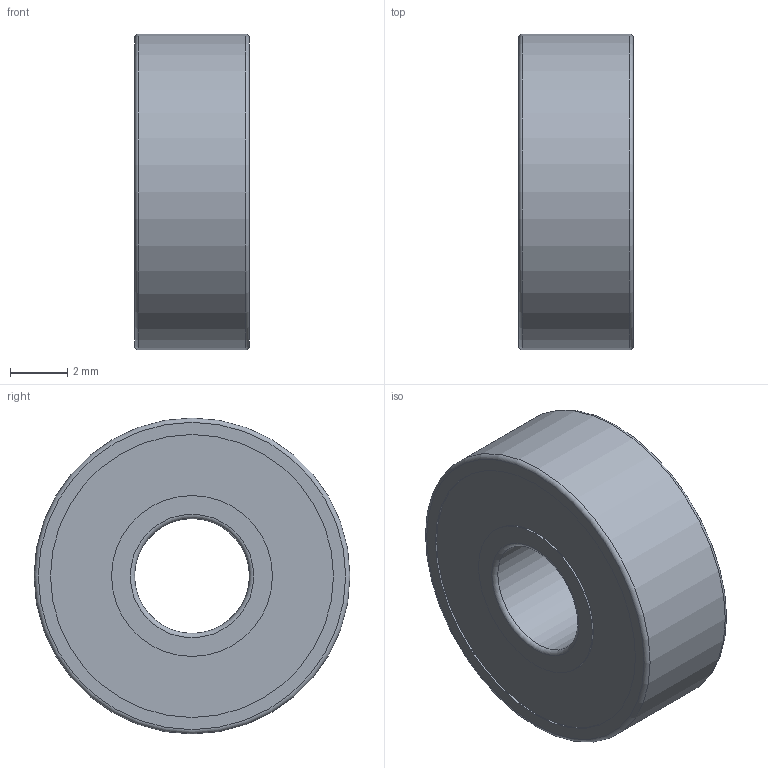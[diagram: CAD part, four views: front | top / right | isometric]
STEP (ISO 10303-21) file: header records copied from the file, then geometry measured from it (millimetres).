
FILE_DESCRIPTION(('FreeCAD Model'),'2;1');
FILE_NAME('Open CASCADE Shape Model','2021-04-30T15:06:14',(''),(''), 'Open CASCADE STEP processor 7.5','FreeCAD','Unknown');
FILE_SCHEMA(('AUTOMOTIVE_DESIGN { 1 0 10303 214 1 1 1 1 }'));
Length unit declared in the file: millimetre
Products named in the file (6): 694ZZ; _694ZZ Outer Ring; _694ZZ Inner Ring; _694ZZ Shield1; _694ZZ Ball; _694ZZ Shield2
Assembly tree (12 placements, depth 2):
  694ZZ
    _694ZZ Outer Ring
    _694ZZ Inner Ring
    _694ZZ Shield1
    _694ZZ Ball  x8
    _694ZZ Shield2
Bounding box: 4 x 11 x 11 mm (x, y, z)
Volume: 228.6 mm3; surface area: 816.5 mm2
Topology: 12 solids, 12 shells, 40 faces, 76 edges, 48 vertices
Faces by surface type: cylinder 14, plane 12, sphere 8, torus 6
Full cylindrical faces by diameter (mm): 4 x1, 5.6 x4, 6.15 x2, 8.95 x2, 9.85 x4, 11 x1
Entity records: 1770 total; most frequent: CARTESIAN_POINT 357, DIRECTION 248, ORIENTED_EDGE 104, PCURVE 104, DEFINITIONAL_REPRESENTATION 104, LINE 80, VECTOR 80, AXIS2_PLACEMENT_3D 78
